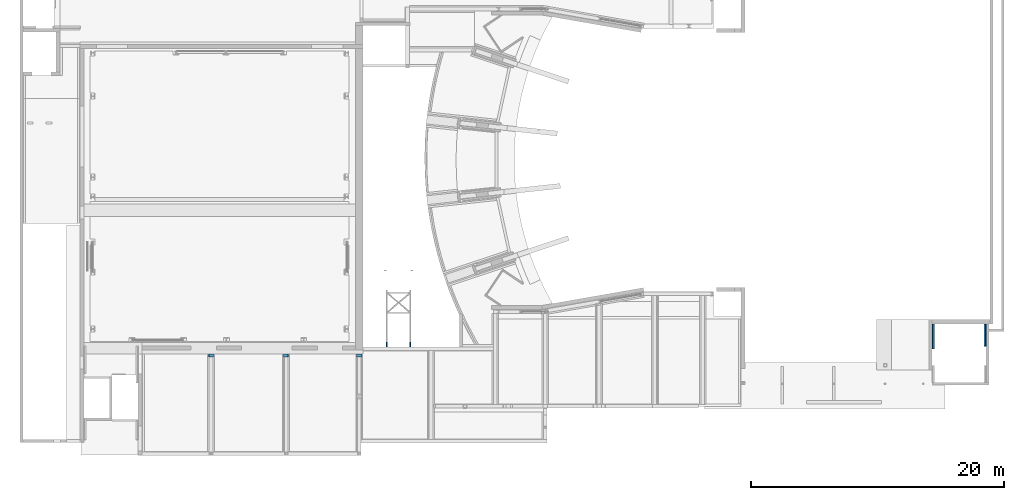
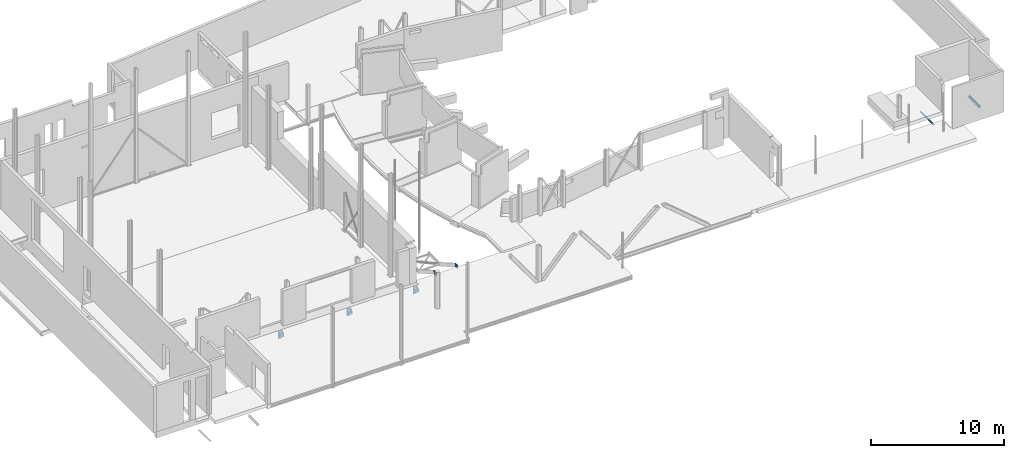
# One storey, part 20 of 37: 7 beams.
"""IFC2X3 building model written with IfcOpenShell, lengths in millimetres."""

from ifc_helpers import new_model, entity, si_unit, converted_unit, derived_unit, direction, frame, frame_2d, origin, origin_2d_with_axis, place, context, subcontext, project, spatial, polyline, circle_curve, parameter, trimmed, segment, composite_curve, rectangle, outline, extrude, clip, halfspace, source, transform, mapped, material, type_object, type_shapes, element, save


model = new_model("IFC2X3")

# Units and contexts
model_context = context("Model", 3, precision=0.01, world=origin(), true_north=direction((6.12303176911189e-17, 1.0)))
body_context = subcontext(model_context, "Body", "Model", "MODEL_VIEW")
ifc_project = project(units=[si_unit("LENGTHUNIT", "METRE", prefix="MILLI"), si_unit("AREAUNIT", "SQUARE_METRE", prefix="MILLI"), si_unit("VOLUMEUNIT", "CUBIC_METRE"), converted_unit("PLANEANGLEUNIT", "DEGREE", entity("IfcRatioMeasure", 0.0174532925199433), si_unit("PLANEANGLEUNIT", "RADIAN"), dimensions=[0, 0, 0, 0, 0, 0, 0]), si_unit("MASSUNIT", "GRAM", prefix="KILO"), derived_unit("MASSDENSITYUNIT", [(si_unit("MASSUNIT", "GRAM", prefix="KILO"), 1), (si_unit("LENGTHUNIT", "METRE"), -3)]), derived_unit("MOMENTOFINERTIAUNIT", [(si_unit("LENGTHUNIT", "METRE"), 4)]), si_unit("TIMEUNIT", "SECOND"), si_unit("FREQUENCYUNIT", "HERTZ"), si_unit("THERMODYNAMICTEMPERATUREUNIT", "DEGREE_CELSIUS"), derived_unit("THERMALTRANSMITTANCEUNIT", [(si_unit("MASSUNIT", "GRAM", prefix="KILO"), 1), (si_unit("THERMODYNAMICTEMPERATUREUNIT", "KELVIN"), -1), (si_unit("TIMEUNIT", "SECOND"), -3)]), derived_unit("VOLUMETRICFLOWRATEUNIT", [(si_unit("LENGTHUNIT", "METRE"), 3), (si_unit("TIMEUNIT", "SECOND"), -1)]), si_unit("ELECTRICCURRENTUNIT", "AMPERE"), si_unit("ELECTRICVOLTAGEUNIT", "VOLT"), si_unit("POWERUNIT", "WATT"), si_unit("FORCEUNIT", "NEWTON", prefix="KILO"), si_unit("ILLUMINANCEUNIT", "LUX"), si_unit("LUMINOUSFLUXUNIT", "LUMEN"), si_unit("LUMINOUSINTENSITYUNIT", "CANDELA"), derived_unit("USERDEFINED", [(si_unit("MASSUNIT", "GRAM", prefix="KILO"), -1), (si_unit("LENGTHUNIT", "METRE"), -2), (si_unit("TIMEUNIT", "SECOND"), 3), (si_unit("LUMINOUSFLUXUNIT", "LUMEN"), 1)]), derived_unit("LINEARVELOCITYUNIT", [(si_unit("LENGTHUNIT", "METRE"), 1), (si_unit("TIMEUNIT", "SECOND"), -1)]), si_unit("PRESSUREUNIT", "PASCAL"), derived_unit("USERDEFINED", [(si_unit("LENGTHUNIT", "METRE"), -2), (si_unit("MASSUNIT", "GRAM", prefix="KILO"), 1), (si_unit("TIMEUNIT", "SECOND"), -2)]), derived_unit("LINEARFORCEUNIT", [(si_unit("MASSUNIT", "GRAM", prefix="KILO"), 1), (si_unit("LENGTHUNIT", "METRE"), 1), (si_unit("TIMEUNIT", "SECOND"), -2), (si_unit("LENGTHUNIT", "METRE"), -1)]), derived_unit("PLANARFORCEUNIT", [(si_unit("MASSUNIT", "GRAM", prefix="KILO"), 1), (si_unit("LENGTHUNIT", "METRE"), 1), (si_unit("TIMEUNIT", "SECOND"), -2), (si_unit("LENGTHUNIT", "METRE"), -2)])], contexts=[model_context])

# Site, building, storey
site_placement = place(None, origin())
site = spatial("IfcSite", under=ifc_project, at=site_placement, Name="Theater aan de Parade", CompositionType="ELEMENT")
building_placement = place(site_placement, origin())
building = spatial("IfcBuilding", under=site, at=building_placement, Name="Theater aan de Parade", CompositionType="ELEMENT")
storey_placement = place(building_placement, frame((0.0, 0.0, 5020.0)))
storey = spatial("IfcBuildingStorey", under=building, at=storey_placement, Name="01 eerste verdieping", CompositionType="ELEMENT", Elevation=5020.0)

# Beams
ifc_material = material(Name="00_PBT_MAT_staal_S355")
beam_type_1 = type_object("IfcBeamType", Name="28_PBT_SF_staal_L-profiel:S355_L150x150x15", PredefinedType="NOTDEFINED")
beam_1_placement = place(storey_placement, frame((82542.5084217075, 17497.71026228, 0.0), z_axis=(0.0, 0.0, 1.0), x_axis=(0.0, 1.0, 0.0)))
element("IfcBeam", 1, at=beam_1_placement, inside=storey, type_object=beam_type_1, material=ifc_material, Name="28_PBT_SF_staal_L-profiel:S355_L150x150x15", ObjectType="28_PBT_SF_staal_L-profiel:S355_L150x150x15", context=body_context, shape_type="SweptSolid", body=[
    extrude(outline(composite_curve([segment(polyline([(49.6666666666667, -93.3333333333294), (56.6666666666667, -93.3333333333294)]), True, "CONTINUOUS"), segment(polyline([(56.6666666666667, -93.3333333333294), (56.6666666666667, 56.6666666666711)]), True, "CONTINUOUS"), segment(polyline([(56.6666666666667, 56.6666666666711), (-93.3333333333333, 56.6666666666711)]), True, "CONTINUOUS"), segment(polyline([(-93.3333333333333, 56.6666666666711), (-93.3333333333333, 49.6666666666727)]), True, "CONTINUOUS"), segment(trimmed(circle_curve(frame_2d((-85.3333333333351, 49.6666666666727), x_axis=(-1.0, 0.0)), 7.99999999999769), [parameter(0.0)], [parameter(90.0000000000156)], True, "PARAMETER"), True, "CONTINUOUS"), segment(polyline([(-85.333333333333, 41.6666666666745), (25.6666666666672, 41.6666666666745)]), True, "CONTINUOUS"), segment(trimmed(circle_curve(frame_2d((25.6666666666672, 25.6666666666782), x_axis=(0.0, 1.0)), 15.9999999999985), [parameter(269.999999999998)], [parameter(0.0)], True, "PARAMETER"), False, "CONTINUOUS"), segment(polyline([(41.6666666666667, 25.6666666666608), (41.6666666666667, -85.3333333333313)]), True, "CONTINUOUS"), segment(trimmed(circle_curve(frame_2d((49.6666666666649, -85.3333333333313), x_axis=(-1.0, 0.0)), 7.9999999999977), [parameter(0.0)], [parameter(90.0000000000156)], True, "PARAMETER"), True, "CONTINUOUS")], self_intersect=False)), frame((0.0, -14.1666666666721, -1405.33333333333), z_axis=(1.0, 0.0, 0.0), x_axis=(0.0, 0.0, -1.0)), (0.0, 0.0, 1.0), 1962.2899812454),
])
beam_2_placement = place(storey_placement, frame((86723.499999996, 17725.000246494, 0.0), z_axis=(0.0, 0.0, 1.0), x_axis=(0.0, 1.0, 0.0)))
element("IfcBeam", 2, at=beam_2_placement, inside=storey, type_object=beam_type_1, material=ifc_material, Name="28_PBT_SF_staal_L-profiel:S355_L150x150x15", ObjectType="28_PBT_SF_staal_L-profiel:S355_L150x150x15", context=body_context, shape_type="SweptSolid", body=[
    extrude(outline(composite_curve([segment(polyline([(-93.3333333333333, -56.6666666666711), (56.6666666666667, -56.6666666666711)]), True, "CONTINUOUS"), segment(polyline([(56.6666666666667, -56.6666666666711), (56.6666666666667, 93.3333333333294)]), True, "CONTINUOUS"), segment(polyline([(56.6666666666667, 93.3333333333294), (49.6666666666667, 93.3333333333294)]), True, "CONTINUOUS"), segment(trimmed(circle_curve(frame_2d((49.6666666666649, 85.3333333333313), x_axis=(0.0, 1.0)), 7.9999999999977), [parameter(0.0)], [parameter(90.0000000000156)], True, "PARAMETER"), True, "CONTINUOUS"), segment(polyline([(41.6666666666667, 85.3333333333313), (41.6666666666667, -25.6666666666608)]), True, "CONTINUOUS"), segment(trimmed(circle_curve(frame_2d((25.6666666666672, -25.6666666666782), x_axis=(1.0, 0.0)), 15.9999999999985), [parameter(269.999999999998)], [parameter(0.0)], True, "PARAMETER"), False, "CONTINUOUS"), segment(polyline([(25.6666666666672, -41.6666666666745), (-85.333333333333, -41.6666666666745)]), True, "CONTINUOUS"), segment(trimmed(circle_curve(frame_2d((-85.3333333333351, -49.6666666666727), x_axis=(0.0, 1.0)), 7.99999999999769), [parameter(0.0)], [parameter(90.0000000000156)], True, "PARAMETER"), True, "CONTINUOUS"), segment(polyline([(-93.3333333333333, -49.6666666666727), (-93.3333333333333, -56.6666666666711)]), True, "CONTINUOUS")], self_intersect=False)), frame((0.0, 14.1666666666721, -1405.33333333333), z_axis=(1.0, 0.0, 0.0), x_axis=(0.0, 0.0, -1.0)), (0.0, 0.0, 1.0), 1734.99999703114),
])
beam_type_2 = type_object("IfcBeamType", Name="28_PBT_SF_staal_oplegschoen vakwerk:oplegschoen HEB400 PZ", PredefinedType="BEAM", material=ifc_material)
shared_shape_1 = source(origin(), body_context, "Body", "SweptSolid", [
    clip(extrude(rectangle(XDim=20.0000000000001, YDim=230.0, at=frame_2d((-1.68753899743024e-14, 0.0), x_axis=(1.0, 0.0))), frame((140.0, 170.0, 0.0), z_axis=(0.0, 0.0, 1.0), x_axis=(0.0, -1.0, 0.0)), (0.0, 0.0, 1.0), 380.000000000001), halfspace(frame((255.0, 160.0, 200.0), z_axis=(0.707106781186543, 0.0, 0.707106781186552), x_axis=(0.0, 1.0, 0.0)), False)),
    clip(extrude(rectangle(XDim=20.0000000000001, YDim=230.0, at=origin_2d_with_axis()), frame((140.0, -170.0, 0.0), z_axis=(0.0, 0.0, 1.0), x_axis=(0.0, -1.0, 0.0)), (0.0, 0.0, 1.0), 380.000000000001), halfspace(frame((255.0, -180.0, 200.0), z_axis=(0.707106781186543, 0.0, 0.707106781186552), x_axis=(0.0, 1.0, 0.0)), False)),
    extrude(rectangle(XDim=400.0, YDim=250.0, at=origin_2d_with_axis()), frame((150.0, 0.0, -25.0), z_axis=(0.0, 0.0, 1.0), x_axis=(0.0, -1.0, 0.0)), (0.0, 0.0, 1.0), 24.9999999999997),
    extrude(rectangle(XDim=400.0, YDim=25.0000000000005, at=origin_2d_with_axis()), frame((12.5000000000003, 0.0, -275.0), z_axis=(0.0, 0.0, 1.0), x_axis=(0.0, -1.0, 0.0)), (0.0, 0.0, 1.0), 675.0),
])
type_shapes(beam_type_2, [shared_shape_1])
for number, where, z_axis, x_axis, name in (
    (3, (25410.0, 17111.308446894, -545.0), (0.0, 0.0, 1.0), (0.0, -1.0, 0.0), "28_PBT_SF_staal_oplegschoen vakwerk:oplegschoen HEB400 PZ"),
    (4, (31375.0, 17111.3084468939, -545.0), (0.0, 0.0, 1.0), (0.0, -1.0, 0.0), "28_PBT_SF_staal_oplegschoen vakwerk:oplegschoen HEB400 PZ"),
    (5, (37153.8581300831, 17111.3084468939, -545.0), (0.0, 0.0, 1.0), (0.0, -1.0, 0.0), "28_PBT_SF_staal_oplegschoen vakwerk:oplegschoen HEB400 PZ"),
):
    element("IfcBeam", number, at=place(storey_placement, frame(where, z_axis=z_axis, x_axis=x_axis)), inside=storey, type_object=beam_type_2, material=ifc_material, Name=name, ObjectType="28_PBT_SF_staal_oplegschoen vakwerk:oplegschoen HEB400 PZ", context=body_context, shape_type="MappedRepresentation", body=[
        mapped(shared_shape_1, transform((0.0, 0.0, 0.0), scale=1.0)),
    ])
beam_type_3 = type_object("IfcBeamType", Name="28_PBT_SF_staal_trapboom_glas:trapboom", PredefinedType="BEAM", material=ifc_material)
shared_shape_2 = source(origin(), body_context, "Body", "Clipping", [
    clip(extrude(rectangle(XDim=20.000000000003, YDim=30.0000000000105, at=frame_2d((0.0, 0.0), x_axis=(0.0, 1.0))), frame((39341.8281932, 17962.254206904, 4740.0), z_axis=(0.0, -1.0, 0.0), x_axis=(-1.0, 0.0, 0.0)), (0.0, 0.0, 1.0), 282.009831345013), halfspace(frame((40604.2165406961, 18446.1886845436, 6556.98820892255), z_axis=(0.0, 0.96595876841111, -0.258696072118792), x_axis=(-1.0, 0.0, 0.0)), False)),
    clip(extrude(rectangle(XDim=310.0, YDim=30.0000000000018, at=frame_2d((-4.33164615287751e-12, 5.54223333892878e-13), x_axis=(0.0, 1.0))), frame((39311.8281932, 18034.5636488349, 4865.0), z_axis=(0.0, -1.0, 0.0), x_axis=(-1.0, 0.0, 0.0)), (0.0, 0.0, 1.0), 354.31927327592), halfspace(frame((40604.2165406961, 18446.1886845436, 6556.98820892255), z_axis=(0.0, 0.96595876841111, -0.258696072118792), x_axis=(-1.0, 0.0, 0.0)), False)),
    clip(extrude(rectangle(XDim=19.9999999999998, YDim=30.0000000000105, at=frame_2d((0.0, 0.0), x_axis=(0.0, 1.0))), frame((39341.8281932, 18002.4261190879, 4890.0), z_axis=(0.0, -1.0, 0.0), x_axis=(-1.0, 0.0, 0.0)), (0.0, 0.0, 1.0), 322.181743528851), halfspace(frame((40604.2165406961, 18446.1886845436, 6556.98820892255), z_axis=(0.0, 0.96595876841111, -0.258696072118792), x_axis=(-1.0, 0.0, 0.0)), False)),
    clip(extrude(rectangle(XDim=310.0, YDim=29.9999999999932, at=frame_2d((0.0, 5.54223333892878e-13), x_axis=(0.0, 1.0))), frame((39371.8281932, 18034.5636488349, 4865.0), z_axis=(0.0, -1.0, 0.0), x_axis=(-1.0, 0.0, 0.0)), (0.0, 0.0, 1.0), 354.31927327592), halfspace(frame((40604.2165406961, 18446.1886845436, 6556.98820892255), z_axis=(0.0, 0.96595876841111, -0.258696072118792), x_axis=(-1.0, 0.0, 0.0)), False)),
])
type_shapes(beam_type_3, [shared_shape_2])
beam_3_placement = place(storey_placement, frame((0.0, 0.0, -5020.0)))
element("IfcBeam", 6, at=beam_3_placement, inside=storey, type_object=beam_type_3, material=ifc_material, Name="28_PBT_SF_staal_trapboom_glas:trapboom", ObjectType="28_PBT_SF_staal_trapboom_glas:trapboom", context=body_context, shape_type="MappedRepresentation", body=[
    mapped(shared_shape_2, transform((0.0, 0.0, 0.0), scale=1.0)),
])
beam_type_4 = type_object("IfcBeamType", Name="28_PBT_SF_staal_trapboom_glas:trapboom", PredefinedType="BEAM", material=ifc_material)
shared_shape_3 = source(origin(), body_context, "Body", "Clipping", [
    clip(extrude(rectangle(XDim=20.0000000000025, YDim=30.0000000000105, at=frame_2d((0.0, 2.70894418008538e-13), x_axis=(0.0, 1.0))), frame((41191.8281932, 17962.254206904, 4740.0), z_axis=(0.0, -1.0, 0.0), x_axis=(-1.0, 0.0, 0.0)), (0.0, 0.0, 1.0), 282.009831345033), halfspace(frame((42454.2165406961, 18446.1886845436, 6556.98820892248), z_axis=(0.0, 0.96595876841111, -0.258696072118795), x_axis=(-1.0, 0.0, 0.0)), False)),
    clip(extrude(rectangle(XDim=310.0, YDim=30.0000000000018, at=frame_2d((4.33164615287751e-12, 5.54223333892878e-13), x_axis=(0.0, 1.0))), frame((41161.8281932, 18034.5636488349, 4865.0), z_axis=(0.0, -1.0, 0.0), x_axis=(-1.0, 0.0, 0.0)), (0.0, 0.0, 1.0), 354.319273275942), halfspace(frame((42454.2165406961, 18446.1886845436, 6556.98820892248), z_axis=(0.0, 0.96595876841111, -0.258696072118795), x_axis=(-1.0, 0.0, 0.0)), False)),
    clip(extrude(rectangle(XDim=20.0000000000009, YDim=30.0000000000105, at=frame_2d((0.0, -5.41788836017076e-13), x_axis=(0.0, 1.0))), frame((41191.8281932, 18002.4261190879, 4890.0), z_axis=(0.0, -1.0, 0.0), x_axis=(-1.0, 0.0, 0.0)), (0.0, 0.0, 1.0), 322.181743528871), halfspace(frame((42454.2165406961, 18446.1886845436, 6556.98820892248), z_axis=(0.0, 0.96595876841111, -0.258696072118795), x_axis=(-1.0, 0.0, 0.0)), False)),
    clip(extrude(rectangle(XDim=310.0, YDim=29.9999999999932, at=frame_2d((0.0, 5.54223333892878e-13), x_axis=(0.0, 1.0))), frame((41221.8281932, 18034.5636488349, 4865.0), z_axis=(0.0, -1.0, 0.0), x_axis=(-1.0, 0.0, 0.0)), (0.0, 0.0, 1.0), 354.319273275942), halfspace(frame((42454.2165406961, 18446.1886845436, 6556.98820892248), z_axis=(0.0, 0.96595876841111, -0.258696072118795), x_axis=(-1.0, 0.0, 0.0)), False)),
])
type_shapes(beam_type_4, [shared_shape_3])
beam_4_placement = place(storey_placement, frame((0.0, 0.0, -5020.0)))
element("IfcBeam", 7, at=beam_4_placement, inside=storey, type_object=beam_type_4, material=ifc_material, Name="28_PBT_SF_staal_trapboom_glas:trapboom", ObjectType="28_PBT_SF_staal_trapboom_glas:trapboom", context=body_context, shape_type="MappedRepresentation", body=[
    mapped(shared_shape_3, transform((0.0, 0.0, 0.0), scale=1.0)),
])

save(model, "model.ifc")
